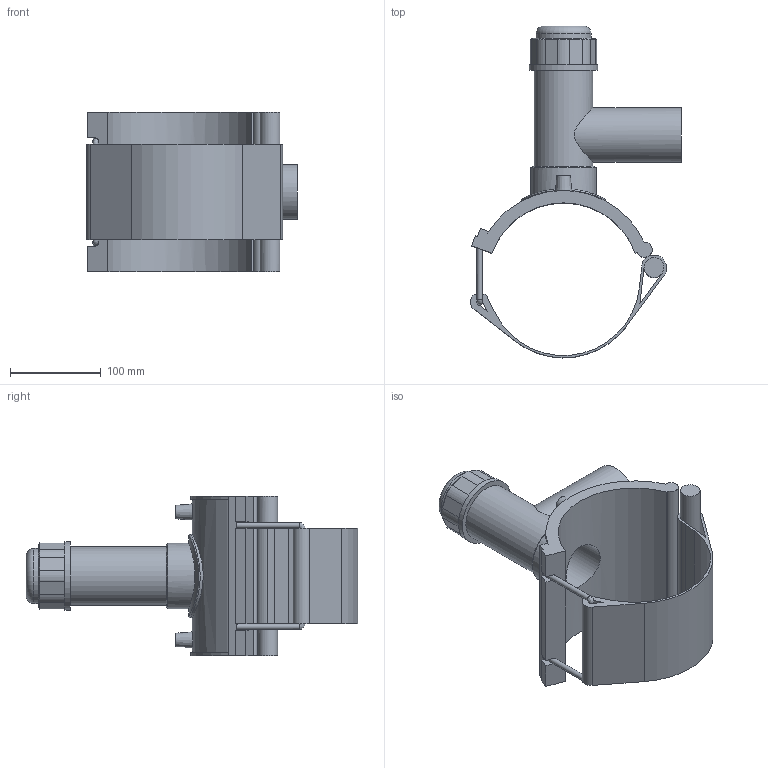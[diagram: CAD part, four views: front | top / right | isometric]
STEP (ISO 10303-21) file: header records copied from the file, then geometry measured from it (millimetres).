
FILE_DESCRIPTION(/* description */ ('PLASSON HIGH VOLUME TAPPING TEE 6''''IPSx 2''''IPS'),/* implementation_level */ '2;1');
FILE_NAME(/* name */ 'C:\Dropbox\KIMPROJECTS-Inventor 2019\99-16-3568-Processing Inch\ASTM ElectroFusion 2021\5913B\5913BB03060020.ipt.stp',/* time_stamp */ '2021-08-30T09:50:32+03:00',/* author */ ('KIM'),/* organization */ (''),/* preprocessor_version */ 'ST-DEVELOPER v17.2',/* originating_system */ 'Autodesk Inventor 2019',/* authorisation */ '');
FILE_SCHEMA (('AUTOMOTIVE_DESIGN { 1 0 10303 214 3 1 1 }'));
Length unit declared in the file: millimetre
Products named in the file (1): 5913BB03060020
Bounding box: 232.24 x 365.32 x 176.02 mm (x, y, z)
Volume: 1185559.1 mm3; surface area: 292162.5 mm2
Topology: 1 solids, 1 shells, 126 faces, 333 edges, 210 vertices
Faces by surface type: plane 69, cylinder 42, cone 11, bspline 3, torus 1
Full cylindrical faces by diameter (mm): 4 x2, 6.048 x2, 10 x2, 21.84 x1, 48.08 x1, 53.038 x1, 60.1 x1, 60.614 x1, 64.403 x1, 71.98 x1, 75.768 x1, 92.4 x1
Entity records: 4577 total; most frequent: CARTESIAN_POINT 1341, DIRECTION 678, ORIENTED_EDGE 664, EDGE_CURVE 332, AXIS2_PLACEMENT_3D 245, VERTEX_POINT 210, LINE 188, VECTOR 188
